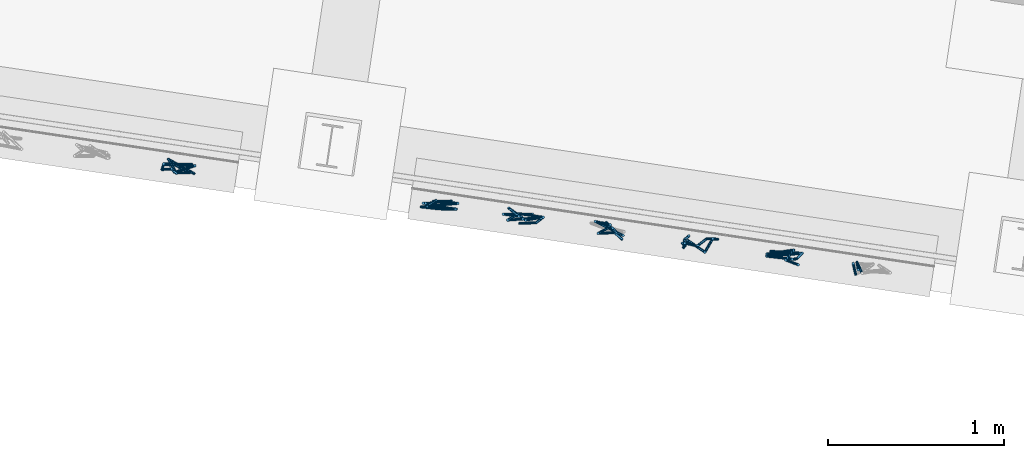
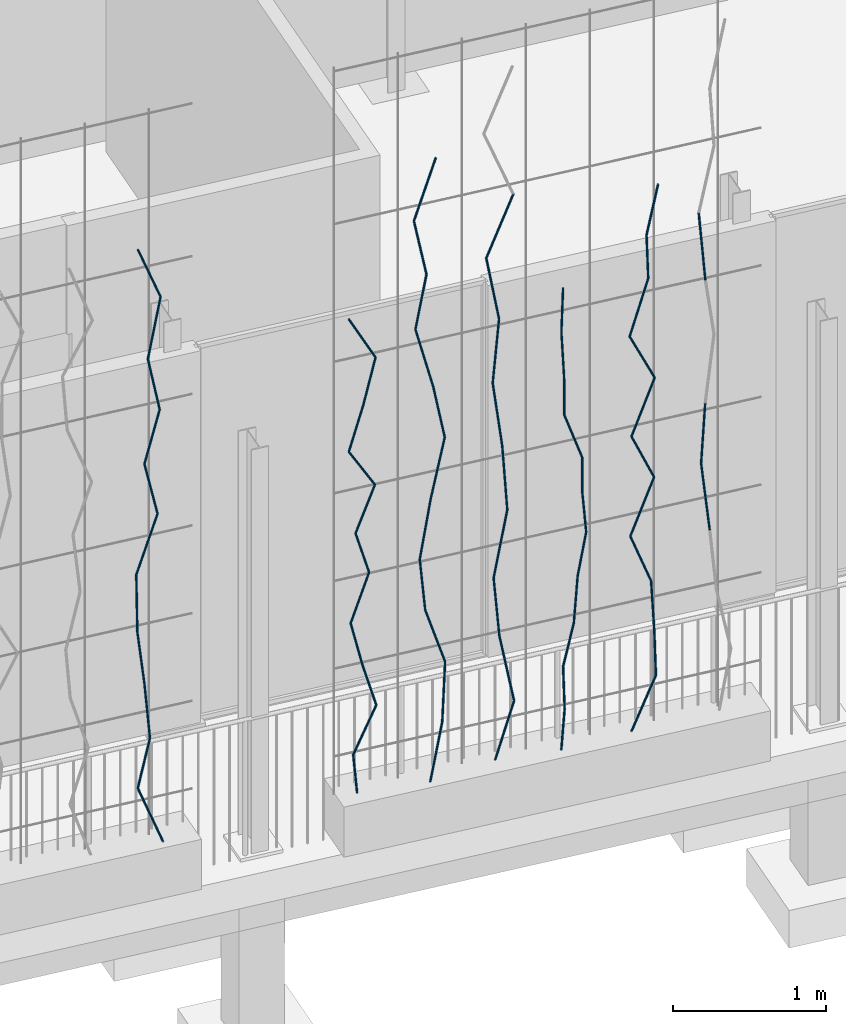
# One storey, part 120 of 142: 67 members, 1 element without a shape of its own.
"""IFC4 building model written with IfcOpenShell, lengths in metres."""

import ifcopenshell
import ifcopenshell.guid

model = None  # the IFC model being written
_history = None  # IfcOwnerHistory: only IFC2X3 demands one
_inside = {}  # id of a spatial element -> (the spatial element, [elements in it])
_under = {}  # id of a project, library or spatial element -> (it, [spatial elements below it])
_declared = {}  # id of a project -> (the project, [libraries it declares])
_typed = {}  # id of a type object -> (the type object, [elements of that type])
_made_of = {}  # id of a material, layer set ... -> (it, [elements and type objects made of it])


def new_model(schema):
    """Start an empty IFC model of exactly this schema.

    Asked for "IFC4X3", IfcOpenShell would pick the latest addendum, in which some entities
    have other attributes; the version numbers below select the first issue.
    IFC2X3 requires an IfcOwnerHistory on every rooted entity: one is made here for all.
    """
    global model, _history
    if schema == "IFC4X3":
        model = ifcopenshell.file(schema_version=(4, 3, 0, 0))
    else:
        model = ifcopenshell.file(schema=schema)
    _inside.clear()
    _under.clear()
    _declared.clear()
    _typed.clear()
    _made_of.clear()
    _history = None
    if model.schema == "IFC2X3":
        org = make("IfcOrganization", Name="unknown")
        user = make(
            "IfcPersonAndOrganization",
            ThePerson=make("IfcPerson", FamilyName="unknown"),
            TheOrganization=org,
        )
        app = make(
            "IfcApplication",
            ApplicationDeveloper=org,
            Version="unknown",
            ApplicationFullName="unknown",
            ApplicationIdentifier="unknown",
        )
        _history = make(
            "IfcOwnerHistory",
            OwningUser=user,
            OwningApplication=app,
            ChangeAction="ADDED",
            CreationDate=0,
        )
    return model


def make(cls, **values):
    """One entity of the class cls with the attributes given. An attribute that is None is left unset."""
    return model.create_entity(
        cls, **{name: value for name, value in values.items() if value is not None}
    )


def rooted(cls, **values):
    """An entity with a GlobalId (a new one), such as an element, a storey or a relation."""
    return make(cls, GlobalId=ifcopenshell.guid.new(), OwnerHistory=_history, **values)


def si_unit(unit_type, name, prefix=None):
    """IfcSIUnit, for example si_unit("LENGTHUNIT", "METRE", prefix="MILLI")."""
    return make("IfcSIUnit", UnitType=unit_type, Prefix=prefix, Name=name)


def assignment(units):
    """IfcUnitAssignment: the units of a project."""
    return None if units is None else make("IfcUnitAssignment", Units=units)


def point(xyz):
    """IfcCartesianPoint."""
    return None if xyz is None else make("IfcCartesianPoint", Coordinates=xyz)


def direction(xyz):
    """IfcDirection."""
    return None if xyz is None else make("IfcDirection", DirectionRatios=xyz)


def frame(location, z_axis=None, x_axis=None):
    """IfcAxis2Placement3D, a coordinate frame: its origin and axes. An axis left out is left unset."""
    return make(
        "IfcAxis2Placement3D",
        Location=point(location),
        Axis=direction(z_axis),
        RefDirection=direction(x_axis),
    )


def origin_with_axes():
    """The frame at (0, 0, 0) with the z axis (0, 0, 1) and the x axis (1, 0, 0) written out."""
    return frame((0.0, 0.0, 0.0), z_axis=(0.0, 0.0, 1.0), x_axis=(1.0, 0.0, 0.0))


def place(relative_to, where):
    """IfcLocalPlacement: puts the frame where relative to a parent placement (None: the world)."""
    return make(
        "IfcLocalPlacement", PlacementRelTo=relative_to, RelativePlacement=where
    )


def context(
    kind, dimensions, precision=None, world=None, true_north=None, identifier=None
):
    """IfcGeometricRepresentationContext, for example the 3D "Model" context."""
    return make(
        "IfcGeometricRepresentationContext",
        ContextIdentifier=identifier,
        ContextType=kind,
        CoordinateSpaceDimension=dimensions,
        Precision=precision,
        WorldCoordinateSystem=world,
        TrueNorth=true_north,
    )


def subcontext(parent, identifier, kind, view, scale=None):
    """IfcGeometricRepresentationSubContext, for example "Body" below "Model"."""
    return make(
        "IfcGeometricRepresentationSubContext",
        ContextIdentifier=identifier,
        ContextType=kind,
        ParentContext=parent,
        TargetScale=scale,
        TargetView=view,
    )


def project(units=None, contexts=None):
    """IfcProject with its units and contexts."""
    return rooted(
        "IfcProject",
        Name="project",
        RepresentationContexts=contexts,
        UnitsInContext=assignment(units),
    )


def spatial(cls, under=None, at=None, **own):
    """A site, building, storey or space (cls), placed at a placement, below another one or the project."""
    s = rooted(cls, ObjectPlacement=at, **own)
    if under is not None:
        _under.setdefault(under.id(), (under, []))[1].append(s)
    return s


def profile(cls, at=None, kind="AREA", **sizes):
    """A parametric profile (cls). Its sizes go by their IFC names, for example OverallWidth=200.0."""
    return make(cls, ProfileType=kind, Position=at, **sizes)


def circle(**sizes):
    """IfcCircleProfileDef."""
    return profile("IfcCircleProfileDef", **sizes)


def extrude(swept, where, along, depth):
    """IfcExtrudedAreaSolid: the profile swept, set in the frame where, extruded along a direction by depth."""
    return make(
        "IfcExtrudedAreaSolid",
        SweptArea=swept,
        Position=where,
        ExtrudedDirection=direction(along),
        Depth=depth,
    )


def shape(context_of_items, identifier, shape_type, items):
    """IfcShapeRepresentation: the items that make up one representation, for example the "Body"."""
    return make(
        "IfcShapeRepresentation",
        ContextOfItems=context_of_items,
        RepresentationIdentifier=identifier,
        RepresentationType=shape_type,
        Items=items,
    )


def material(Name=None, Category=None):
    """IfcMaterial."""
    return make("IfcMaterial", Name=Name, Category=Category)


def material_profile(
    of_material, cross_section, Name=None, Category=None, Priority=None
):
    """IfcMaterialProfile: a cross section and its material."""
    return make(
        "IfcMaterialProfile",
        Name=Name,
        Material=of_material,
        Profile=cross_section,
        Priority=Priority,
        Category=Category,
    )


def profile_set(profiles, Name=None, composite=None):
    """IfcMaterialProfileSet."""
    return make(
        "IfcMaterialProfileSet",
        Name=Name,
        MaterialProfiles=profiles,
        CompositeProfile=composite,
    )


def profile_usage(for_profile_set, cardinal=None, extent=None):
    """IfcMaterialProfileSetUsage: how a profile set lies along its element."""
    return make(
        "IfcMaterialProfileSetUsage",
        ForProfileSet=for_profile_set,
        CardinalPoint=cardinal,
        ReferenceExtent=extent,
    )


def made_of(thing, what):
    """Note that an element or type object is made of a material, layer set ...; save() writes the relation."""
    if what is not None:
        _made_of.setdefault(what.id(), (what, []))[1].append(thing)
    return thing


def type_object(cls, material=None, **own):
    """A type object (cls), such as IfcWallType, which elements share."""
    return made_of(rooted(cls, **own), material)


def element(
    cls,
    number,
    at=None,
    inside=None,
    cuts=None,
    type_object=None,
    material=None,
    context=None,
    identifier="Body",
    shape_type=None,
    held_by="IfcProductDefinitionShape",
    body=None,
    shapes=None,
    **own,
):
    """One element of the class cls, such as IfcWall. Its Tag is "e" and its number.

    at: its placement. inside: the storey or other place that contains it. cuts: it is an
    opening in that element (IfcRelVoidsElement). A single representation is given by context,
    identifier, shape_type and body (its items); several are given by shapes. held_by: the class
    of the entity that holds the representations. save() writes the other relations.
    """
    e = rooted(cls, Tag="e%d" % number, ObjectPlacement=at, **own)
    if body is not None:
        shapes = [shape(context, identifier, shape_type, body)]
    if shapes is not None:
        e.Representation = make(held_by, Representations=shapes)
    if inside is not None:
        _inside.setdefault(inside.id(), (inside, []))[1].append(e)
    if cuts is not None:
        rooted(
            "IfcRelVoidsElement", RelatingBuildingElement=cuts, RelatedOpeningElement=e
        )
    if type_object is not None:
        _typed.setdefault(type_object.id(), (type_object, []))[1].append(e)
    return made_of(e, material)


def aggregate(whole, parts):
    """IfcRelAggregates: a whole, such as a stair, and the parts it consists of."""
    return rooted("IfcRelAggregates", RelatingObject=whole, RelatedObjects=parts)


def save(model, path):
    """Write the relations noted so far, then the file.

    IfcRelAggregates (storeys below a building ...), IfcRelContainedInSpatialStructure (elements
    in a storey), IfcRelDefinesByType, IfcRelAssociatesMaterial and IfcRelDeclares: one each for
    every whole, place, type object, material and project.
    """
    for whole, parts in _under.values():
        aggregate(whole, parts)
    for where, things in _inside.values():
        rooted(
            "IfcRelContainedInSpatialStructure",
            RelatedElements=things,
            RelatingStructure=where,
        )
    for kind, things in _typed.values():
        rooted("IfcRelDefinesByType", RelatedObjects=things, RelatingType=kind)
    for what, things in _made_of.values():
        rooted("IfcRelAssociatesMaterial", RelatedObjects=things, RelatingMaterial=what)
    for by, libraries in _declared.values():
        rooted("IfcRelDeclares", RelatingContext=by, RelatedDefinitions=libraries)
    model.write(path)


model = new_model("IFC4")

# Units and contexts
model_context = context("Model", 3, precision=1e-05, world=origin_with_axes(), true_north=direction((0.0, 1.0)))
body_context = subcontext(model_context, "Body", "Model", "MODEL_VIEW")
ifc_project = project(units=[si_unit("LENGTHUNIT", "METRE"), si_unit("AREAUNIT", "SQUARE_METRE"), si_unit("VOLUMEUNIT", "CUBIC_METRE")], contexts=[model_context])

# Site, building, storey
site_placement = place(None, origin_with_axes())
site = spatial("IfcSite", under=ifc_project, at=site_placement, Name="Lares · Rua das Mercês · artigo 4771")
building_placement = place(site_placement, frame((15.0, 9.7, 14.65), z_axis=(0.0, 0.0, 1.0), x_axis=(0.989015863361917, -0.147809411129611, 0.0)))
building = spatial("IfcBuilding", under=site, at=building_placement, Name="Casa Sobreposta")
storey_placement = place(building_placement, origin_with_axes())
storey = spatial("IfcBuildingStorey", under=building, at=storey_placement, Name="00 · Habitação e estacionamento", Elevation=14.65)

# Assembly, members
assembly_placement = place(storey_placement, origin_with_axes())
assembly = element("IfcElementAssembly", 1, at=assembly_placement, inside=storey, Name="Fachada sul e pátio · estrutura e trepadeiras", ObjectType="LIVING_SHADE_TRELLIS", PredefinedType="USERDEFINED")
ifc_material = material(Name="Ramos de trepadeiras", Category="wood")
ifc_material_profile = material_profile(ifc_material, circle(Radius=0.0075))
ifc_profile_set = profile_set([ifc_material_profile], Name="D0.015")
ifc_profile_usage_1 = profile_usage(ifc_profile_set)
member_type = type_object("IfcMemberType", Name="D0.015 / vine_wood", PredefinedType="NOTDEFINED", material=ifc_profile_set)
member_1_placement = place(assembly_placement, frame((15.2607594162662, -1.7095147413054, 0.35), z_axis=(-0.337365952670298, 0.127105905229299, 0.932753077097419), x_axis=(0.352566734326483, 0.935786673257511, 0.0)))
member_1 = element("IfcMember", 2, at=member_1_placement, type_object=member_type, material=ifc_profile_usage_1, Name="Trepadeiras · ramo", context=body_context, shape_type="SweptSolid", body=[
    extrude(circle(Radius=0.0075), origin_with_axes(), (0.0, 0.0, 1.0), 0.463665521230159),
])
ifc_profile_usage_2 = profile_usage(ifc_profile_set)
member_2_placement = place(assembly_placement, frame((15.104334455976, -1.65058011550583, 0.782485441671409), z_axis=(0.128975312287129, -0.164258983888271, 0.977949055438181), x_axis=(-0.786516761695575, -0.617568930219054, 0.0)))
member_2 = element("IfcMember", 3, at=member_2_placement, type_object=member_type, material=ifc_profile_usage_2, Name="Trepadeiras · ramo", context=body_context, shape_type="SweptSolid", body=[
    extrude(circle(Radius=0.0075), origin_with_axes(), (0.0, 0.0, 1.0), 0.44223718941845),
])
ifc_profile_usage_3 = profile_usage(ifc_profile_set)
member_3_placement = place(assembly_placement, frame((15.1613721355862, -1.72322154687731, 1.21497088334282), z_axis=(-0.0719495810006, 0.0477886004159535, 0.996262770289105), x_axis=(0.553274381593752, 0.832999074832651, 0.0)))
member_3 = element("IfcMember", 4, at=member_3_placement, type_object=member_type, material=ifc_profile_usage_3, Name="Trepadeiras · ramo", context=body_context, shape_type="SweptSolid", body=[
    extrude(circle(Radius=0.0075), origin_with_axes(), (0.0, 0.0, 1.0), 0.4341078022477),
])
ifc_profile_usage_4 = profile_usage(ifc_profile_set)
member_4_placement = place(assembly_placement, frame((15.1301382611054, -1.70247614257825, 1.64745632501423), z_axis=(-0.123832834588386, -0.0263375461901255, 0.991953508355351), x_axis=(-0.208033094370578, 0.978121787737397, 0.0)))
member_4 = element("IfcMember", 5, at=member_4_placement, type_object=member_type, material=ifc_profile_usage_4, Name="Trepadeiras · ramo", context=body_context, shape_type="SweptSolid", body=[
    extrude(circle(Radius=0.0075), origin_with_axes(), (0.0, 0.0, 1.0), 0.435993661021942),
])
ifc_profile_usage_5 = profile_usage(ifc_profile_set)
member_5_placement = place(assembly_placement, frame((15.0761479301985, -1.71395914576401, 2.07994176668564), z_axis=(0.0132062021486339, 0.0761319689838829, 0.997010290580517), x_axis=(0.985286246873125, -0.170912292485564, 0.0)))
member_5 = element("IfcMember", 6, at=member_5_placement, type_object=member_type, material=ifc_profile_usage_5, Name="Trepadeiras · ramo", context=body_context, shape_type="SweptSolid", body=[
    extrude(circle(Radius=0.0075), origin_with_axes(), (0.0, 0.0, 1.0), 0.433782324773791),
])
ifc_profile_usage_6 = profile_usage(ifc_profile_set)
member_6_placement = place(assembly_placement, frame((15.0818765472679, -1.68093444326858, 2.51242720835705), z_axis=(0.342762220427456, 0.0461039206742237, 0.93829019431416), x_axis=(0.133306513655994, -0.991074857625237, 0.0)))
member_6 = element("IfcMember", 7, at=member_6_placement, type_object=member_type, material=ifc_profile_usage_6, Name="Trepadeiras · ramo", context=body_context, shape_type="SweptSolid", body=[
    extrude(circle(Radius=0.0075), origin_with_axes(), (0.0, 0.0, 1.0), 0.460929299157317),
])
ifc_profile_usage_7 = profile_usage(ifc_profile_set)
member_7_placement = place(assembly_placement, frame((15.2398656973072, -1.6596837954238, 2.94491265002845), z_axis=(-0.222915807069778, -0.036643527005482, 0.974148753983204), x_axis=(-0.162205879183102, 0.986756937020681, 0.0)))
member_7 = element("IfcMember", 8, at=member_7_placement, type_object=member_type, material=ifc_profile_usage_7, Name="Trepadeiras · ramo", context=body_context, shape_type="SweptSolid", body=[
    extrude(circle(Radius=0.0075), origin_with_axes(), (0.0, 0.0, 1.0), 0.443962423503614),
])
ifc_profile_usage_8 = profile_usage(ifc_profile_set)
member_8_placement = place(assembly_placement, frame((15.1408994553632, -1.67595214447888, 3.37739809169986), z_axis=(0.213066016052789, -0.0735330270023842, 0.974266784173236), x_axis=(-0.326236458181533, -0.945288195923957, 0.0)))
member_8 = element("IfcMember", 9, at=member_8_placement, type_object=member_type, material=ifc_profile_usage_8, Name="Trepadeiras · ramo", context=body_context, shape_type="SweptSolid", body=[
    extrude(circle(Radius=0.0075), origin_with_axes(), (0.0, 0.0, 1.0), 0.443908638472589),
])
ifc_profile_usage_9 = profile_usage(ifc_profile_set)
member_9_placement = place(assembly_placement, frame((15.235481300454, -1.70859409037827, 3.80988353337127), z_axis=(-0.19816638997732, -0.0243245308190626, 0.979866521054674), x_axis=(-0.1218336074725, 0.992550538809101, 0.0)))
member_9 = element("IfcMember", 10, at=member_9_placement, type_object=member_type, material=ifc_profile_usage_9, Name="Trepadeiras · ramo", context=body_context, shape_type="SweptSolid", body=[
    extrude(circle(Radius=0.0075), origin_with_axes(), (0.0, 0.0, 1.0), 0.441371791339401),
])
ifc_profile_usage_10 = profile_usage(ifc_profile_set)
member_10_placement = place(assembly_placement, frame((15.1480162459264, -1.71933025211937, 4.24236897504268), z_axis=(0.246754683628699, 0.121737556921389, 0.961401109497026), x_axis=(0.44243957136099, -0.896798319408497, 0.0)))
member_10 = element("IfcMember", 11, at=member_10_placement, type_object=member_type, material=ifc_profile_usage_10, Name="Trepadeiras · ramo", context=body_context, shape_type="SweptSolid", body=[
    extrude(circle(Radius=0.0075), origin_with_axes(), (0.0, 0.0, 1.0), 0.449849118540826),
])
ifc_profile_usage_11 = profile_usage(ifc_profile_set)
member_11_placement = place(assembly_placement, frame((15.2590186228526, -1.66456671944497, 4.67485441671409), z_axis=(-0.360268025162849, -0.0428537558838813, 0.931863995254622), x_axis=(-0.118116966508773, 0.992999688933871, 0.0)))
member_11 = element("IfcMember", 12, at=member_11_placement, type_object=member_type, material=ifc_profile_usage_11, Name="Trepadeiras · ramo", context=body_context, shape_type="SweptSolid", body=[
    extrude(circle(Radius=0.0075), origin_with_axes(), (0.0, 0.0, 1.0), 0.464107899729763),
])
ifc_profile_usage_12 = profile_usage(ifc_profile_set)
member_12_placement = place(assembly_placement, frame((16.6437823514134, -1.65744029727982, 0.35), z_axis=(-0.125335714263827, -0.117489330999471, 0.985133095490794), x_axis=(-0.683901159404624, 0.729574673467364, 0.0)))
member_12 = element("IfcMember", 13, at=member_12_placement, type_object=member_type, material=ifc_profile_usage_12, Name="Trepadeiras · ramo", context=body_context, shape_type="SweptSolid", body=[
    extrude(circle(Radius=0.0075), origin_with_axes(), (0.0, 0.0, 1.0), 0.352596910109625),
])
ifc_profile_usage_13 = profile_usage(ifc_profile_set)
member_13_placement = place(assembly_placement, frame((16.5995893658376, -1.69886667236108, 0.697354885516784), z_axis=(0.431298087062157, 0.025974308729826, 0.901835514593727), x_axis=(0.0601146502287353, -0.998191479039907, 3.62071145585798e-18)))
member_13 = element("IfcMember", 14, at=member_13_placement, type_object=member_type, material=ifc_profile_usage_13, Name="Trepadeiras · ramo", context=body_context, shape_type="SweptSolid", body=[
    extrude(circle(Radius=0.0075), origin_with_axes(), (0.0, 0.0, 1.0), 0.385164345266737),
])
ifc_profile_usage_14 = profile_usage(ifc_profile_set)
member_14_placement = place(assembly_placement, frame((16.7657100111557, -1.6888622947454, 1.04470977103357), z_axis=(-0.272189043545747, -0.00629168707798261, 0.962223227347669), x_axis=(-0.0231089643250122, 0.999732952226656, -7.66354077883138e-19)))
member_14 = element("IfcMember", 15, at=member_14_placement, type_object=member_type, material=ifc_profile_usage_14, Name="Trepadeiras · ramo", context=body_context, shape_type="SweptSolid", body=[
    extrude(circle(Radius=0.0075), origin_with_axes(), (0.0, 0.0, 1.0), 0.360991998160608),
])
ifc_profile_usage_15 = profile_usage(ifc_profile_set)
member_15_placement = place(assembly_placement, frame((16.6674519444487, -1.69113354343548, 1.39206465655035), z_axis=(-0.223345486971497, 0.0225816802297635, 0.974477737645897), x_axis=(0.100593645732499, 0.994927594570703, 0.0)))
member_15 = element("IfcMember", 16, at=member_15_placement, type_object=member_type, material=ifc_profile_usage_15, Name="Trepadeiras · ramo", context=body_context, shape_type="SweptSolid", body=[
    extrude(circle(Radius=0.0075), origin_with_axes(), (0.0, 0.0, 1.0), 0.356452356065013),
])
ifc_profile_usage_16 = profile_usage(ifc_profile_set)
member_16_placement = place(assembly_placement, frame((16.5878399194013, -1.68308425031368, 1.73941954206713), z_axis=(0.380513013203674, 0.0935831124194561, 0.920028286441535), x_axis=(0.23882262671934, -0.971063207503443, 0.0)))
member_16 = element("IfcMember", 17, at=member_16_placement, type_object=member_type, material=ifc_profile_usage_16, Name="Trepadeiras · ramo", context=body_context, shape_type="SweptSolid", body=[
    extrude(circle(Radius=0.0075), origin_with_axes(), (0.0, 0.0, 1.0), 0.377548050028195),
])
ifc_profile_usage_17 = profile_usage(ifc_profile_set)
member_17_placement = place(assembly_placement, frame((16.7315018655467, -1.64775212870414, 2.08677442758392), z_axis=(-0.281212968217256, -0.0458064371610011, 0.958551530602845), x_axis=(-0.160769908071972, 0.986991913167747, 0.0)))
member_17 = element("IfcMember", 18, at=member_17_placement, type_object=member_type, material=ifc_profile_usage_17, Name="Trepadeiras · ramo", context=body_context, shape_type="SweptSolid", body=[
    extrude(circle(Radius=0.0075), origin_with_axes(), (0.0, 0.0, 1.0), 0.362374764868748),
])
ifc_profile_usage_18 = profile_usage(ifc_profile_set)
member_18_placement = place(assembly_placement, frame((16.6295973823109, -1.66435122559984, 2.4341293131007), z_axis=(0.373944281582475, 0.0247671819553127, 0.927120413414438), x_axis=(0.0660874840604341, -0.997813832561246, 0.0)))
member_18 = element("IfcMember", 19, at=member_18_placement, type_object=member_type, material=ifc_profile_usage_18, Name="Trepadeiras · ramo", context=body_context, shape_type="SweptSolid", body=[
    extrude(circle(Radius=0.0075), origin_with_axes(), (0.0, 0.0, 1.0), 0.374659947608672),
])
ifc_profile_usage_19 = profile_usage(ifc_profile_set)
member_19_placement = place(assembly_placement, frame((16.7696993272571, -1.65507195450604, 2.78148419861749), z_axis=(-0.501884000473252, -0.125757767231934, 0.855743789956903), x_axis=(-0.243057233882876, 0.970011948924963, 0.0)))
member_19 = element("IfcMember", 20, at=member_19_placement, type_object=member_type, material=ifc_profile_usage_19, Name="Trepadeiras · ramo", context=body_context, shape_type="SweptSolid", body=[
    extrude(circle(Radius=0.0075), origin_with_axes(), (0.0, 0.0, 1.0), 0.40590991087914),
])
ifc_profile_usage_20 = profile_usage(ifc_profile_set)
member_20_placement = place(assembly_placement, frame((16.5659796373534, -1.70611827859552, 3.12883908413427), z_axis=(0.28716983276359, 0.011629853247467, 0.9578090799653), x_axis=(0.040465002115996, -0.999180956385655, 0.0)))
member_20 = element("IfcMember", 21, at=member_20_placement, type_object=member_type, material=ifc_profile_usage_20, Name="Trepadeiras · ramo", context=body_context, shape_type="SweptSolid", body=[
    extrude(circle(Radius=0.0075), origin_with_axes(), (0.0, 0.0, 1.0), 0.362655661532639),
])
ifc_profile_usage_21 = profile_usage(ifc_profile_set)
member_21_placement = place(assembly_placement, frame((16.6701234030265, -1.70190064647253, 3.47619396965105), z_axis=(0.249343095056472, 0.0291380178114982, 0.967976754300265), x_axis=(0.116069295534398, -0.993241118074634, 0.0)))
member_21 = element("IfcMember", 22, at=member_21_placement, type_object=member_type, material=ifc_profile_usage_21, Name="Trepadeiras · ramo", context=body_context, shape_type="SweptSolid", body=[
    extrude(circle(Radius=0.0075), origin_with_axes(), (0.0, 0.0, 1.0), 0.358846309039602),
])
ifc_profile_usage_22 = profile_usage(ifc_profile_set)
member_22_placement = place(assembly_placement, frame((16.759599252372, -1.69144457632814, 3.82354885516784), z_axis=(-0.470201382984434, 0.0215530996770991, 0.882295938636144), x_axis=(0.0457899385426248, 0.998951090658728, 0.0)))
member_22 = element("IfcMember", 23, at=member_22_placement, type_object=member_type, material=ifc_profile_usage_22, Name="Trepadeiras · ramo", context=body_context, shape_type="SweptSolid", body=[
    extrude(circle(Radius=0.0075), origin_with_axes(), (0.0, 0.0, 1.0), 0.393694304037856),
])
ifc_profile_usage_23 = profile_usage(ifc_profile_set)
member_23_placement = place(assembly_placement, frame((17.1334743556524, -1.71608831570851, 0.35), z_axis=(0.201113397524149, 0.0382970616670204, 0.978819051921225), x_axis=(0.187063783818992, -0.982347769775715, 0.0)))
member_23 = element("IfcMember", 24, at=member_23_placement, type_object=member_type, material=ifc_profile_usage_23, Name="Trepadeiras · ramo", context=body_context, shape_type="SweptSolid", body=[
    extrude(circle(Radius=0.0075), origin_with_axes(), (0.0, 0.0, 1.0), 0.457949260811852),
])
ifc_profile_usage_24 = profile_usage(ifc_profile_set)
member_24_placement = place(assembly_placement, frame((17.2255740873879, -1.69855020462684, 0.798249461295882), z_axis=(0.0767993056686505, 0.0814555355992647, 0.993713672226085), x_axis=(0.727596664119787, -0.68600517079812, 0.0)))
member_24 = element("IfcMember", 25, at=member_24_placement, type_object=member_type, material=ifc_profile_usage_24, Name="Trepadeiras · ramo", context=body_context, shape_type="SweptSolid", body=[
    extrude(circle(Radius=0.0075), origin_with_axes(), (0.0, 0.0, 1.0), 0.451085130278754),
])
ifc_profile_usage_25 = profile_usage(ifc_profile_set)
member_25_placement = place(assembly_placement, frame((17.2602171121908, -1.66180682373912, 1.24649892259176), z_axis=(-0.298062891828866, -0.000194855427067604, 0.954546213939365), x_axis=(-0.00065373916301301, 0.999999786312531, 0.0)))
member_25 = element("IfcMember", 26, at=member_25_placement, type_object=member_type, material=ifc_profile_usage_25, Name="Trepadeiras · ramo", context=body_context, shape_type="SweptSolid", body=[
    extrude(circle(Radius=0.0075), origin_with_axes(), (0.0, 0.0, 1.0), 0.469594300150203),
])
ifc_profile_usage_26 = profile_usage(ifc_profile_set)
member_26_placement = place(assembly_placement, frame((17.1202484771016, -1.66189832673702, 1.69474838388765), z_axis=(-0.123936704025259, -0.0998765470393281, 0.987250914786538), x_axis=(-0.627476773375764, 0.778635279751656, 0.0)))
member_26 = element("IfcMember", 27, at=member_26_placement, type_object=member_type, material=ifc_profile_usage_26, Name="Trepadeiras · ramo", context=body_context, shape_type="SweptSolid", body=[
    extrude(circle(Radius=0.0075), origin_with_axes(), (0.0, 0.0, 1.0), 0.45403803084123),
])
ifc_profile_usage_27 = profile_usage(ifc_profile_set)
member_27_placement = place(assembly_placement, frame((17.0639765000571, -1.70724607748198, 2.14299784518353), z_axis=(0.184612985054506, 0.0413662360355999, 0.981940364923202), x_axis=(0.218648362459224, -0.975803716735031, 0.0)))
member_27 = element("IfcMember", 28, at=member_27_placement, type_object=member_type, material=ifc_profile_usage_27, Name="Trepadeiras · ramo", context=body_context, shape_type="SweptSolid", body=[
    extrude(circle(Radius=0.0075), origin_with_axes(), (0.0, 0.0, 1.0), 0.456493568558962),
])
ifc_profile_usage_28 = profile_usage(ifc_profile_set)
member_28_placement = place(assembly_placement, frame((17.1482511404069, -1.68836265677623, 2.59124730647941), z_axis=(0.236385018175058, 0.0561572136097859, 0.970035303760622), x_axis=(0.231133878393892, -0.972921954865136, 0.0)))
member_28 = element("IfcMember", 29, at=member_28_placement, type_object=member_type, material=ifc_profile_usage_28, Name="Trepadeiras · ramo", context=body_context, shape_type="SweptSolid", body=[
    extrude(circle(Radius=0.0075), origin_with_axes(), (0.0, 0.0, 1.0), 0.462096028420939),
])
ifc_profile_usage_29 = profile_usage(ifc_profile_set)
member_29_placement = place(assembly_placement, frame((17.2574837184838, -1.66241263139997, 3.03949676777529), z_axis=(-0.203403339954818, -0.0669733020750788, 0.976801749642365), x_axis=(-0.31274655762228, 0.949836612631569, 0.0)))
member_29 = element("IfcMember", 30, at=member_29_placement, type_object=member_type, material=ifc_profile_usage_29, Name="Trepadeiras · ramo", context=body_context, shape_type="SweptSolid", body=[
    extrude(circle(Radius=0.0075), origin_with_axes(), (0.0, 0.0, 1.0), 0.458895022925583),
])
ifc_profile_usage_30 = profile_usage(ifc_profile_set)
member_30_placement = place(assembly_placement, frame((17.1641429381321, -1.69314634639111, 3.48774622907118), z_axis=(-0.224295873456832, 0.115463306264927, 0.967656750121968), x_axis=(0.457696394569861, 0.889108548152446, 0.0)))
member_30 = element("IfcMember", 31, at=member_30_placement, type_object=member_type, material=ifc_profile_usage_30, Name="Trepadeiras · ramo", context=body_context, shape_type="SweptSolid", body=[
    extrude(circle(Radius=0.0075), origin_with_axes(), (0.0, 0.0, 1.0), 0.463231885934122),
])
ifc_profile_usage_31 = profile_usage(ifc_profile_set)
member_31_placement = place(assembly_placement, frame((17.0602419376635, -1.63966006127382, 3.93599569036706), z_axis=(0.138490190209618, -0.082918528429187, 0.986886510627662), x_axis=(-0.513695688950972, -0.857972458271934, 0.0)))
member_31 = element("IfcMember", 32, at=member_31_placement, type_object=member_type, material=ifc_profile_usage_31, Name="Trepadeiras · ramo", context=body_context, shape_type="SweptSolid", body=[
    extrude(circle(Radius=0.0075), origin_with_axes(), (0.0, 0.0, 1.0), 0.454205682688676),
])
ifc_profile_usage_32 = profile_usage(ifc_profile_set)
member_32_placement = place(assembly_placement, frame((17.1231449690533, -1.67732212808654, 4.38424515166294), z_axis=(-0.193845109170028, -0.000843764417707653, 0.9810317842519), x_axis=(-0.00435273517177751, 0.999990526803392, 0.0)))
member_32 = element("IfcMember", 33, at=member_32_placement, type_object=member_type, material=ifc_profile_usage_32, Name="Trepadeiras · ramo", context=body_context, shape_type="SweptSolid", body=[
    extrude(circle(Radius=0.0075), origin_with_axes(), (0.0, 0.0, 1.0), 0.456916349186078),
])
ifc_profile_usage_33 = profile_usage(ifc_profile_set)
member_33_placement = place(assembly_placement, frame((17.0345739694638, -1.67770765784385, 4.83249461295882), z_axis=(0.341901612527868, 0.0500748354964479, 0.938400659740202), x_axis=(0.144913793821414, -0.989444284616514, 0.0)))
member_33 = element("IfcMember", 34, at=member_33_placement, type_object=member_type, material=ifc_profile_usage_33, Name="Trepadeiras · ramo", context=body_context, shape_type="SweptSolid", body=[
    extrude(circle(Radius=0.0075), origin_with_axes(), (0.0, 0.0, 1.0), 0.477673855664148),
])
ifc_profile_usage_34 = profile_usage(ifc_profile_set)
member_34_placement = place(assembly_placement, frame((17.6199550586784, -1.63810039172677, 0.35), z_axis=(0.196294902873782, -0.15611312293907, 0.968037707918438), x_axis=(-0.622448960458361, -0.782660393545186, 0.0)))
member_34 = element("IfcMember", 35, at=member_34_placement, type_object=member_type, material=ifc_profile_usage_34, Name="Trepadeiras · ramo", context=body_context, shape_type="SweptSolid", body=[
    extrude(circle(Radius=0.0075), origin_with_axes(), (0.0, 0.0, 1.0), 0.520207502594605),
])
ifc_profile_usage_35 = profile_usage(ifc_profile_set)
member_35_placement = place(assembly_placement, frame((17.7220691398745, -1.71931160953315, 0.853580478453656), z_axis=(-0.158176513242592, 0.109824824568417, 0.981284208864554), x_axis=(0.570325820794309, 0.821418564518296, 0.0)))
member_35 = element("IfcMember", 36, at=member_35_placement, type_object=member_type, material=ifc_profile_usage_35, Name="Trepadeiras · ramo", context=body_context, shape_type="SweptSolid", body=[
    extrude(circle(Radius=0.0075), origin_with_axes(), (0.0, 0.0, 1.0), 0.513185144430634),
])
ifc_profile_usage_36 = profile_usage(ifc_profile_set)
member_36_placement = place(assembly_placement, frame((17.6408953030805, -1.66295114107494, 1.35716095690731), z_axis=(-0.112928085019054, -0.0854996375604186, 0.989917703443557), x_axis=(-0.603624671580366, 0.797268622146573, 0.0)))
member_36 = element("IfcMember", 37, at=member_36_placement, type_object=member_type, material=ifc_profile_usage_36, Name="Trepadeiras · ramo", context=body_context, shape_type="SweptSolid", body=[
    extrude(circle(Radius=0.0075), origin_with_axes(), (0.0, 0.0, 1.0), 0.508709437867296),
])
ifc_profile_usage_37 = profile_usage(ifc_profile_set)
member_37_placement = place(assembly_placement, frame((17.5834477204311, -1.70644561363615, 1.86074143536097), z_axis=(0.202648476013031, 0.0401214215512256, 0.978429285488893), x_axis=(0.19421545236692, -0.980958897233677, 0.0)))
member_37 = element("IfcMember", 38, at=member_37_placement, type_object=member_type, material=ifc_profile_usage_37, Name="Trepadeiras · ramo", context=body_context, shape_type="SweptSolid", body=[
    extrude(circle(Radius=0.0075), origin_with_axes(), (0.0, 0.0, 1.0), 0.514682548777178),
])
ifc_profile_usage_38 = profile_usage(ifc_profile_set)
member_38_placement = place(assembly_placement, frame((17.6877473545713, -1.68579581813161, 2.36432191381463), z_axis=(-0.0542606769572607, 0.0400448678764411, 0.997723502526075), x_axis=(0.59380737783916, 0.804607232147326, 0.0)))
member_38 = element("IfcMember", 39, at=member_38_placement, type_object=member_type, material=ifc_profile_usage_38, Name="Trepadeiras · ramo", context=body_context, shape_type="SweptSolid", body=[
    extrude(circle(Radius=0.0075), origin_with_axes(), (0.0, 0.0, 1.0), 0.50472949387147),
])
ifc_profile_usage_39 = profile_usage(ifc_profile_set)
member_39_placement = place(assembly_placement, frame((17.6603603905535, -1.66558399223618, 2.86790239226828), z_axis=(-0.115554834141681, 0.0430327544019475, 0.992368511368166), x_axis=(0.348987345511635, 0.937127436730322, 0.0)))
member_39 = element("IfcMember", 40, at=member_39_placement, type_object=member_type, material=ifc_profile_usage_39, Name="Trepadeiras · ramo", context=body_context, shape_type="SweptSolid", body=[
    extrude(circle(Radius=0.0075), origin_with_axes(), (0.0, 0.0, 1.0), 0.50745310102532),
])
ifc_profile_usage_40 = profile_usage(ifc_profile_set)
member_40_placement = place(assembly_placement, frame((17.6017217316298, -1.64374688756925, 3.37148287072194), z_axis=(0.084928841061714, -0.00928811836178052, 0.996343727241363), x_axis=(-0.108715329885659, -0.994072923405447, 0.0)))
member_40 = element("IfcMember", 41, at=member_40_placement, type_object=member_type, material=ifc_profile_usage_40, Name="Trepadeiras · ramo", context=body_context, shape_type="SweptSolid", body=[
    extrude(circle(Radius=0.0075), origin_with_axes(), (0.0, 0.0, 1.0), 0.505428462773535),
])
ifc_profile_usage_41 = profile_usage(ifc_profile_set)
member_41_placement = place(assembly_placement, frame((17.6446471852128, -1.6484413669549, 3.87506334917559), z_axis=(-0.170887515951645, 0.012668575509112, 0.985209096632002), x_axis=(0.0739311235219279, 0.997263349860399, 0.0)))
member_41 = element("IfcMember", 42, at=member_41_placement, type_object=member_type, material=ifc_profile_usage_41, Name="Trepadeiras · ramo", context=body_context, shape_type="SweptSolid", body=[
    extrude(circle(Radius=0.0075), origin_with_axes(), (0.0, 0.0, 1.0), 0.511140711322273),
])
ifc_profile_usage_42 = profile_usage(ifc_profile_set)
member_42_placement = place(assembly_placement, frame((17.5572996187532, -1.64196594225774, 4.37864382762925), z_axis=(0.315298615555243, -0.102581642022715, 0.94343192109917), x_axis=(-0.309385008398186, -0.950936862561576, 0.0)))
member_42 = element("IfcMember", 43, at=member_42_placement, type_object=member_type, material=ifc_profile_usage_42, Name="Trepadeiras · ramo", context=body_context, shape_type="SweptSolid", body=[
    extrude(circle(Radius=0.0075), origin_with_axes(), (0.0, 0.0, 1.0), 0.533775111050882),
])
ifc_profile_usage_43 = profile_usage(ifc_profile_set)
member_43_placement = place(assembly_placement, frame((18.0649791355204, -1.69076987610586, 0.35), z_axis=(0.0584111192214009, -0.0341001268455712, 0.997710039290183), x_axis=(-0.504168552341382, -0.863605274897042, 0.0)))
member_43 = element("IfcMember", 44, at=member_43_placement, type_object=member_type, material=ifc_profile_usage_43, Name="Trepadeiras · ramo", context=body_context, shape_type="SweptSolid", body=[
    extrude(circle(Radius=0.0075), origin_with_axes(), (0.0, 0.0, 1.0), 0.333022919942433),
])
ifc_profile_usage_44 = profile_usage(ifc_profile_set)
member_44_placement = place(assembly_placement, frame((18.0844313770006, -1.70212599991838, 0.682260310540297), z_axis=(-0.0163476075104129, 0.0411831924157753, 0.999017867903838), x_axis=(0.999866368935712, 0.000673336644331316, 0.0163337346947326)))
member_44 = element("IfcMember", 45, at=member_44_placement, type_object=member_type, material=ifc_profile_usage_44, Name="Trepadeiras · ramo", context=body_context, shape_type="SweptSolid", body=[
    extrude(circle(Radius=0.0075), origin_with_axes(), (0.0, 0.0, 1.0), 0.332586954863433),
])
ifc_profile_usage_45 = profile_usage(ifc_profile_set)
member_45_placement = place(assembly_placement, frame((18.0789943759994, -1.68842900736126, 1.01452062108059), z_axis=(0.214846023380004, -0.0161481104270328, 0.976514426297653), x_axis=(-0.0749499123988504, -0.997187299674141, 0.0)))
member_45 = element("IfcMember", 46, at=member_45_placement, type_object=member_type, material=ifc_profile_usage_45, Name="Trepadeiras · ramo", context=body_context, shape_type="SweptSolid", body=[
    extrude(circle(Radius=0.0075), origin_with_axes(), (0.0, 0.0, 1.0), 0.340251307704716),
])
ifc_profile_usage_46 = profile_usage(ifc_profile_set)
member_46_placement = place(assembly_placement, frame((18.1520960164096, -1.69392342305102, 1.34678093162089), z_axis=(0.136806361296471, 0.144435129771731, 0.980011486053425), x_axis=(0.726020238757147, -0.687673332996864, 0.0)))
member_46 = element("IfcMember", 47, at=member_46_placement, type_object=member_type, material=ifc_profile_usage_46, Name="Trepadeiras · ramo", context=body_context, shape_type="SweptSolid", body=[
    extrude(circle(Radius=0.0075), origin_with_axes(), (0.0, 0.0, 1.0), 0.339037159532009),
])
ifc_profile_usage_47 = profile_usage(ifc_profile_set)
member_47_placement = place(assembly_placement, frame((18.1984784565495, -1.64495454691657, 1.67904124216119), z_axis=(0.184848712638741, 0.0180286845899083, 0.982601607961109), x_axis=(0.0970715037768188, -0.995277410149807, 0.0)))
member_47 = element("IfcMember", 48, at=member_47_placement, type_object=member_type, material=ifc_profile_usage_47, Name="Trepadeiras · ramo", context=body_context, shape_type="SweptSolid", body=[
    extrude(circle(Radius=0.0075), origin_with_axes(), (0.0, 0.0, 1.0), 0.338143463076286),
])
ifc_profile_usage_48 = profile_usage(ifc_profile_set)
member_48_placement = place(assembly_placement, frame((18.2609838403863, -1.63885826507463, 2.01130155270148), z_axis=(-0.0863639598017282, -0.00316984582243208, 0.996258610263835), x_axis=(-0.0366786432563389, 0.999327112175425, 0.0)))
member_48 = element("IfcMember", 49, at=member_48_placement, type_object=member_type, material=ifc_profile_usage_48, Name="Trepadeiras · ramo", context=body_context, shape_type="SweptSolid", body=[
    extrude(circle(Radius=0.0075), origin_with_axes(), (0.0, 0.0, 1.0), 0.333508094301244),
])
ifc_profile_usage_49 = profile_usage(ifc_profile_set)
member_49_placement = place(assembly_placement, frame((18.2321807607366, -1.6399154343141, 2.34356186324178), z_axis=(-0.0938842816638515, -0.238817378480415, 0.966515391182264), x_axis=(-0.930667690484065, 0.365865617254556, 0.0)))
member_49 = element("IfcMember", 50, at=member_49_placement, type_object=member_type, material=ifc_profile_usage_49, Name="Trepadeiras · ramo", context=body_context, shape_type="SweptSolid", body=[
    extrude(circle(Radius=0.0075), origin_with_axes(), (0.0, 0.0, 1.0), 0.343771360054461),
])
ifc_profile_usage_50 = profile_usage(ifc_profile_set)
member_50_placement = place(assembly_placement, frame((18.1999060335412, -1.72201400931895, 2.67582217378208), z_axis=(-0.29939025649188, 0.145103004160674, 0.943032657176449), x_axis=(0.436137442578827, 0.899880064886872, 0.0)))
member_50 = element("IfcMember", 51, at=member_50_placement, type_object=member_type, material=ifc_profile_usage_50, Name="Trepadeiras · ramo", context=body_context, shape_type="SweptSolid", body=[
    extrude(circle(Radius=0.0075), origin_with_axes(), (0.0, 0.0, 1.0), 0.35233171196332),
])
ifc_profile_usage_51 = profile_usage(ifc_profile_set)
member_51_placement = place(assembly_placement, frame((18.0944213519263, -1.670889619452, 3.00808248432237), z_axis=(-0.0559630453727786, -0.131390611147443, 0.989749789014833), x_axis=(-0.920023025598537, 0.391864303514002, 6.01118427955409e-18)))
member_51 = element("IfcMember", 52, at=member_51_placement, type_object=member_type, material=ifc_profile_usage_51, Name="Trepadeiras · ramo", context=body_context, shape_type="SweptSolid", body=[
    extrude(circle(Radius=0.0075), origin_with_axes(), (0.0, 0.0, 1.0), 0.335701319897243),
])
ifc_profile_usage_52 = profile_usage(ifc_profile_set)
member_52_placement = place(assembly_placement, frame((18.0756344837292, -1.7149976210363, 3.34034279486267), z_axis=(-0.00241143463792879, 0.137675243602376, 0.990474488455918), x_axis=(0.999846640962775, 0.0175126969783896, 0.0)))
member_52 = element("IfcMember", 53, at=member_52_placement, type_object=member_type, material=ifc_profile_usage_52, Name="Trepadeiras · ramo", context=body_context, shape_type="SweptSolid", body=[
    extrude(circle(Radius=0.0075), origin_with_axes(), (0.0, 0.0, 1.0), 0.335455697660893),
])
ifc_profile_usage_53 = profile_usage(ifc_profile_set)
member_53_placement = place(assembly_placement, frame((18.0748255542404, -1.66881367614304, 3.67260310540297), z_axis=(0.0639243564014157, 0.0734451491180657, 0.995248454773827), x_axis=(0.75430535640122, -0.656523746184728, 0.0)))
member_53 = element("IfcMember", 54, at=member_53_placement, type_object=member_type, material=ifc_profile_usage_53, Name="Trepadeiras · ramo", context=body_context, shape_type="SweptSolid", body=[
    extrude(circle(Radius=0.0075), origin_with_axes(), (0.0, 0.0, 1.0), 0.333846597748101),
])
ifc_profile_usage_54 = profile_usage(ifc_profile_set)
member_54_placement = place(assembly_placement, frame((18.5680663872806, -1.66207793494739, 0.35), z_axis=(0.412408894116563, 0.0354071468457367, 0.910310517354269), x_axis=(0.0855397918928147, -0.996334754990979, 0.0)))
member_54 = element("IfcMember", 55, at=member_54_placement, type_object=member_type, material=ifc_profile_usage_54, Name="Trepadeiras · ramo", context=body_context, shape_type="SweptSolid", body=[
    extrude(circle(Radius=0.0075), origin_with_axes(), (0.0, 0.0, 1.0), 0.435767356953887),
])
ifc_profile_usage_55 = profile_usage(ifc_profile_set)
member_55_placement = place(assembly_placement, frame((18.747780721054, -1.64664865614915, 0.746683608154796), z_axis=(-0.065470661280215, -0.0906571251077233, 0.99372776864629), x_axis=(-0.810695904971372, 0.585467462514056, 0.0)))
member_55 = element("IfcMember", 56, at=member_55_placement, type_object=member_type, material=ifc_profile_usage_55, Name="Trepadeiras · ramo", context=body_context, shape_type="SweptSolid", body=[
    extrude(circle(Radius=0.0075), origin_with_axes(), (0.0, 0.0, 1.0), 0.399187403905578),
])
ifc_profile_usage_56 = profile_usage(ifc_profile_set)
member_56_placement = place(assembly_placement, frame((18.7216456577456, -1.68283783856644, 1.14336721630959), z_axis=(-0.0606019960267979, -0.0131741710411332, 0.998075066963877), x_axis=(-0.212426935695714, 0.977176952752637, 0.0)))
member_56 = element("IfcMember", 57, at=member_56_placement, type_object=member_type, material=ifc_profile_usage_56, Name="Trepadeiras · ramo", context=body_context, shape_type="SweptSolid", body=[
    extrude(circle(Radius=0.0075), origin_with_axes(), (0.0, 0.0, 1.0), 0.397448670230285),
])
ifc_profile_usage_57 = profile_usage(ifc_profile_set)
member_57_placement = place(assembly_placement, frame((18.6975594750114, -1.68807389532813, 1.54005082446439), z_axis=(-0.349046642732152, -0.0107278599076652, 0.937043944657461), x_axis=(-0.0307202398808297, 0.999528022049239, 0.0)))
member_57 = element("IfcMember", 58, at=member_57_placement, type_object=member_type, material=ifc_profile_usage_57, Name="Trepadeiras · ramo", context=body_context, shape_type="SweptSolid", body=[
    extrude(circle(Radius=0.0075), origin_with_axes(), (0.0, 0.0, 1.0), 0.423335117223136),
])
ifc_profile_usage_58 = profile_usage(ifc_profile_set)
member_58_placement = place(assembly_placement, frame((18.5497957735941, -1.69261537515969, 1.93673443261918), z_axis=(0.419493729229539, 0.100249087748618, 0.902205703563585), x_axis=(0.232431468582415, -0.972612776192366, 0.0)))
member_58 = element("IfcMember", 59, at=member_58_placement, type_object=member_type, material=ifc_profile_usage_58, Name="Trepadeiras · ramo", context=body_context, shape_type="SweptSolid", body=[
    extrude(circle(Radius=0.0075), origin_with_axes(), (0.0, 0.0, 1.0), 0.439682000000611),
])
ifc_profile_usage_59 = profile_usage(ifc_profile_set)
member_59_placement = place(assembly_placement, frame((18.7342396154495, -1.64853765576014, 2.33341804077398), z_axis=(-0.403063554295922, -0.0984209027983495, 0.909864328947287), x_axis=(-0.237212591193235, 0.971457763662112, 0.0)))
member_59 = element("IfcMember", 60, at=member_59_placement, type_object=member_type, material=ifc_profile_usage_59, Name="Trepadeiras · ramo", context=body_context, shape_type="SweptSolid", body=[
    extrude(circle(Radius=0.0075), origin_with_axes(), (0.0, 0.0, 1.0), 0.435981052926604),
])
ifc_profile_usage_60 = profile_usage(ifc_profile_set)
member_60_placement = place(assembly_placement, frame((18.5585115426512, -1.69144730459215, 2.73010164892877), z_axis=(0.411178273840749, 0.0965607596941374, 0.90642619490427), x_axis=(0.22861963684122, -0.973515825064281, 0.0)))
member_60 = element("IfcMember", 61, at=member_60_placement, type_object=member_type, material=ifc_profile_usage_60, Name="Trepadeiras · ramo", context=body_context, shape_type="SweptSolid", body=[
    extrude(circle(Radius=0.0075), origin_with_axes(), (0.0, 0.0, 1.0), 0.437634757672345),
])
ifc_profile_usage_61 = profile_usage(ifc_profile_set)
member_61_placement = place(assembly_placement, frame((18.7384574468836, -1.64918895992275, 3.12678525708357), z_axis=(-0.428087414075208, -0.0711194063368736, 0.900934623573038), x_axis=(-0.16388665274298, 0.986479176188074, 0.0)))
member_61 = element("IfcMember", 62, at=member_61_placement, type_object=member_type, material=ifc_profile_usage_61, Name="Trepadeiras · ramo", context=body_context, shape_type="SweptSolid", body=[
    extrude(circle(Radius=0.0075), origin_with_axes(), (0.0, 0.0, 1.0), 0.440302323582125),
])
ifc_profile_usage_62 = profile_usage(ifc_profile_set)
member_62_placement = place(assembly_placement, frame((18.54996956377, -1.68050299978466, 3.52346886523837), z_axis=(0.348307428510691, 0.105965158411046, 0.931371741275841), x_axis=(0.291057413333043, -0.956705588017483, 0.0)))
member_62 = element("IfcMember", 63, at=member_62_placement, type_object=member_type, material=ifc_profile_usage_62, Name="Trepadeiras · ramo", context=body_context, shape_type="SweptSolid", body=[
    extrude(circle(Radius=0.0075), origin_with_axes(), (0.0, 0.0, 1.0), 0.425913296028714),
])
ifc_profile_usage_63 = profile_usage(ifc_profile_set)
member_63_placement = place(assembly_placement, frame((18.6983183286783, -1.63537102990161, 3.92015247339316), z_axis=(-0.0910608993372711, -0.156407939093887, 0.983485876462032), x_axis=(-0.864204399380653, 0.503140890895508, 0.0)))
member_63 = element("IfcMember", 64, at=member_63_placement, type_object=member_type, material=ifc_profile_usage_63, Name="Trepadeiras · ramo", context=body_context, shape_type="SweptSolid", body=[
    extrude(circle(Radius=0.0075), origin_with_axes(), (0.0, 0.0, 1.0), 0.403344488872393),
])
ifc_profile_usage_64 = profile_usage(ifc_profile_set)
member_64_placement = place(assembly_placement, frame((18.6615894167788, -1.69845731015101, 4.31683608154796), z_axis=(0.1843751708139, -0.0401044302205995, 0.982037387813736), x_axis=(-0.212545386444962, -0.977151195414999, 0.0)))
member_64 = element("IfcMember", 65, at=member_64_placement, type_object=member_type, material=ifc_profile_usage_64, Name="Trepadeiras · ramo", context=body_context, shape_type="SweptSolid", body=[
    extrude(circle(Radius=0.0075), origin_with_axes(), (0.0, 0.0, 1.0), 0.403939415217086),
])
ifc_profile_usage_65 = profile_usage(ifc_profile_set)
member_65_placement = place(assembly_placement, frame((19.1016189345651, -1.7082324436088, 1.85794696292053), z_axis=(-0.0748386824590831, 0.112071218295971, 0.990878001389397), x_axis=(0.831623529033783, 0.55533981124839, 0.0)))
member_65 = element("IfcMember", 66, at=member_65_placement, type_object=member_type, material=ifc_profile_usage_65, Name="Trepadeiras · ramo", context=body_context, shape_type="SweptSolid", body=[
    extrude(circle(Radius=0.0075), origin_with_axes(), (0.0, 0.0, 1.0), 0.507276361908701),
])
ifc_profile_usage_66 = profile_usage(ifc_profile_set)
member_66_placement = place(assembly_placement, frame((19.0636550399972, -1.65138136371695, 2.36059595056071), z_axis=(0.0254746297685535, -0.0797469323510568, 0.996489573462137), x_axis=(-0.952577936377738, -0.304294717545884, 0.0)))
member_66 = element("IfcMember", 67, at=member_66_placement, type_object=member_type, material=ifc_profile_usage_66, Name="Trepadeiras · ramo", context=body_context, shape_type="SweptSolid", body=[
    extrude(circle(Radius=0.0075), origin_with_axes(), (0.0, 0.0, 1.0), 0.504419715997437),
])
ifc_profile_usage_67 = profile_usage(ifc_profile_set)
member_67_placement = place(assembly_placement, frame((19.0664278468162, -1.72017219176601, 3.86854291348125), z_axis=(-0.0461741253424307, 0.115738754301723, 0.992205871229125), x_axis=(0.928812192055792, 0.370550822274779, 0.0)))
member_67 = element("IfcMember", 68, at=member_67_placement, type_object=member_type, material=ifc_profile_usage_67, Name="Trepadeiras · ramo", context=body_context, shape_type="SweptSolid", body=[
    extrude(circle(Radius=0.0075), origin_with_axes(), (0.0, 0.0, 1.0), 0.506597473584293),
])
aggregate(assembly, [member_1, member_2, member_3, member_4, member_5, member_6, member_7, member_8, member_9, member_10, member_11, member_12, member_13, member_14, member_15, member_16, member_17, member_18, member_19, member_20, member_21, member_22, member_23, member_24, member_25, member_26, member_27, member_28, member_29, member_30, member_31, member_32, member_33, member_34, member_35, member_36, member_37, member_38, member_39, member_40, member_41, member_42, member_43, member_44, member_45, member_46, member_47, member_48, member_49, member_50, member_51, member_52, member_53, member_54, member_55, member_56, member_57, member_58, member_59, member_60, member_61, member_62, member_63, member_64, member_65, member_66, member_67])

save(model, "model.ifc")
